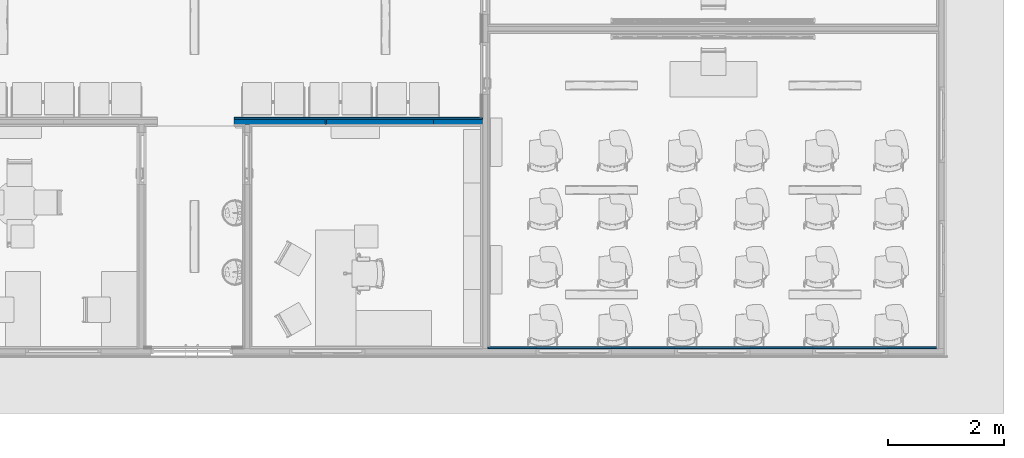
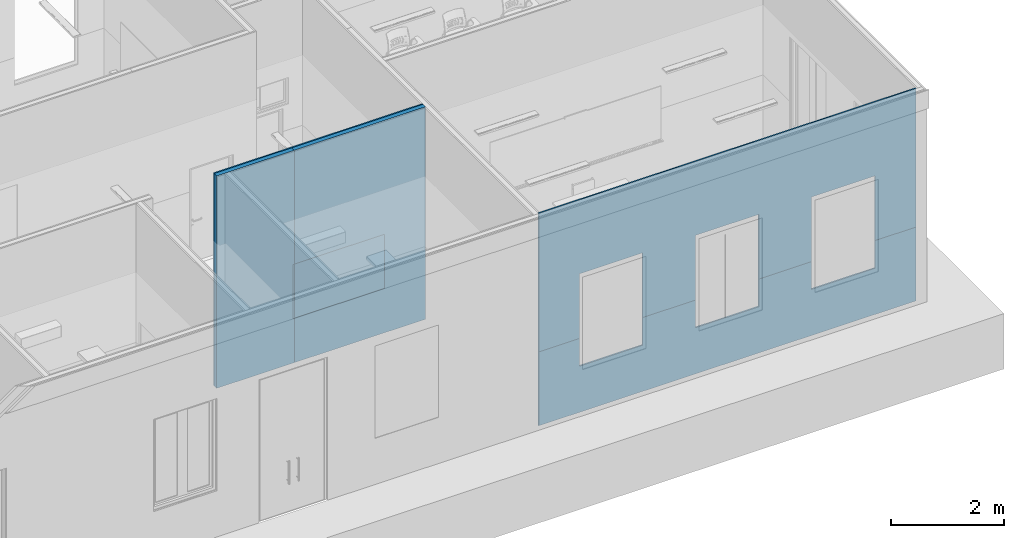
# One storey, part 19 of 155: 8 walls, 20 openings.
"""IFC2X3 building model written with IfcOpenShell, lengths in metres."""

from ifc_helpers import new_model, entity, si_unit, converted_unit, derived_unit, direction, frame, frame_2d, origin, place, context, subcontext, project, spatial, rectangle, extrude, material, layer, layer_set, layer_usage, type_object, element, save


model = new_model("IFC2X3")

# Units and contexts
model_context = context("Model", 3, precision=1e-05, world=origin(), true_north=direction((6.12303176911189e-17, 1.0)))
body_context = subcontext(model_context, "Body", "Model", "MODEL_VIEW")
ifc_project = project(units=[si_unit("LENGTHUNIT", "METRE"), si_unit("AREAUNIT", "SQUARE_METRE"), si_unit("VOLUMEUNIT", "CUBIC_METRE"), converted_unit("PLANEANGLEUNIT", "DEGREE", entity("IfcRatioMeasure", 0.0174532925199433), si_unit("PLANEANGLEUNIT", "RADIAN"), dimensions=[0, 0, 0, 0, 0, 0, 0]), si_unit("MASSUNIT", "GRAM", prefix="KILO"), derived_unit("MASSDENSITYUNIT", [(si_unit("MASSUNIT", "GRAM", prefix="KILO"), 1), (si_unit("LENGTHUNIT", "METRE"), -3)]), si_unit("TIMEUNIT", "SECOND"), si_unit("FREQUENCYUNIT", "HERTZ"), si_unit("THERMODYNAMICTEMPERATUREUNIT", "DEGREE_CELSIUS"), derived_unit("THERMALTRANSMITTANCEUNIT", [(si_unit("MASSUNIT", "GRAM", prefix="KILO"), 1), (si_unit("THERMODYNAMICTEMPERATUREUNIT", "KELVIN"), -1), (si_unit("TIMEUNIT", "SECOND"), -3)]), derived_unit("VOLUMETRICFLOWRATEUNIT", [(si_unit("LENGTHUNIT", "METRE"), 3), (si_unit("TIMEUNIT", "SECOND"), -1)]), si_unit("ELECTRICCURRENTUNIT", "AMPERE"), si_unit("ELECTRICVOLTAGEUNIT", "VOLT"), si_unit("POWERUNIT", "WATT"), si_unit("FORCEUNIT", "NEWTON", prefix="KILO"), si_unit("ILLUMINANCEUNIT", "LUX"), si_unit("LUMINOUSFLUXUNIT", "LUMEN"), si_unit("LUMINOUSINTENSITYUNIT", "CANDELA"), derived_unit("USERDEFINED", [(si_unit("MASSUNIT", "GRAM", prefix="KILO"), -1), (si_unit("LENGTHUNIT", "METRE"), -2), (si_unit("TIMEUNIT", "SECOND"), 3), (si_unit("LUMINOUSFLUXUNIT", "LUMEN"), 1)]), derived_unit("LINEARVELOCITYUNIT", [(si_unit("LENGTHUNIT", "METRE"), 1), (si_unit("TIMEUNIT", "SECOND"), -1)]), si_unit("PRESSUREUNIT", "PASCAL"), derived_unit("USERDEFINED", [(si_unit("LENGTHUNIT", "METRE"), -2), (si_unit("MASSUNIT", "GRAM", prefix="KILO"), 1), (si_unit("TIMEUNIT", "SECOND"), -2)])], contexts=[model_context])

# Site, building, storey
site_placement = place(None, frame((26.9889013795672, -17.5624287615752, 0.0)))
site = spatial("IfcSite", under=ifc_project, at=site_placement, Name="Default", CompositionType="ELEMENT")
building_placement = place(site_placement, origin())
building = spatial("IfcBuilding", under=site, at=building_placement, Name="C. C. L. Monsenhor Antônio Sampaio", CompositionType="ELEMENT")
storey_placement = place(building_placement, frame((0.0, 0.0, 1.19999999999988)))
storey = spatial("IfcBuildingStorey", under=building, at=storey_placement, Name="Nível 1.2", CompositionType="ELEMENT", Elevation=1.19999999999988)

# Wall, opening
ifc_material_1 = material(Name="ALVENARIA")
ifc_layer_1 = layer(ifc_material_1, 0.09)
ifc_layer_set_1 = layer_set([ifc_layer_1], Name="Parede básica:ENucleo parede 15cm")
ifc_layer_usage_1 = layer_usage(ifc_layer_set_1, "AXIS2", "POSITIVE", -0.045)
wall_type_1 = type_object("IfcWallType", Name="Parede básica:ENucleo parede 15cm", PredefinedType="STANDARD", material=ifc_layer_set_1)
wall_1_placement = place(storey_placement, frame((-0.520552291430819, -35.4280663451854, 0.0)))
wall_1 = element("IfcWallStandardCase", 1, at=wall_1_placement, inside=storey, type_object=wall_type_1, material=ifc_layer_usage_1, Name="Parede básica:ENucleo parede 15cm", ObjectType="Parede básica:ENucleo parede 15cm", context=body_context, shape_type="SweptSolid", body=[
    extrude(rectangle(XDim=1.59, YDim=0.0899999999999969, at=frame_2d((0.795, 2.94902990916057e-16), x_axis=(-1.0, 0.0))), origin(), (0.0, 0.0, 1.0), 4.60000000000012),
])
opening_1_placement = place(wall_1_placement, origin())
element("IfcOpeningElement", 2, at=opening_1_placement, cuts=wall_1, Name="Parede básica:ENucleo parede 15cm", ObjectType="Opening", context=body_context, shape_type="SweptSolid", body=[
    extrude(rectangle(XDim=1.17000000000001, YDim=1.87, at=frame_2d((1.11022302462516e-16, 0.0), x_axis=(1.0, 0.0))), frame((2.5, -1.569, 1.55000000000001), z_axis=(0.0, 1.0, 0.0), x_axis=(0.0, 0.0, 1.0)), (0.0, 0.0, 1.0), 3.048),
])

ifc_layer_usage_2 = layer_usage(ifc_layer_set_1, "AXIS2", "POSITIVE", -0.045)
wall_2_placement = place(storey_placement, frame((1.06944770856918, -35.4280663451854, 0.0)))
wall_2 = element("IfcWallStandardCase", 3, at=wall_2_placement, inside=storey, type_object=wall_type_1, material=ifc_layer_usage_2, Name="Parede básica:ENucleo parede 15cm", ObjectType="Parede básica:ENucleo parede 15cm", context=body_context, shape_type="SweptSolid", body=[
    extrude(rectangle(XDim=2.69, YDim=0.0899999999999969, at=frame_2d((1.345, -6.93889390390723e-17), x_axis=(-1.0, 0.0))), origin(), (0.0, 0.0, 1.0), 4.60000000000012),
])
opening_2_placement = place(wall_2_placement, frame((-1.06944770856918, 35.4280663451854, 0.0)))
element("IfcOpeningElement", 4, at=opening_2_placement, cuts=wall_2, Name="Parede básica:ENucleo parede 15cm", ObjectType="Opening", context=body_context, shape_type="SweptSolid", body=[
    extrude(rectangle(XDim=1.17000000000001, YDim=1.87, at=frame_2d((1.11022302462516e-16, 0.0), x_axis=(1.0, 0.0))), frame((1.97944770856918, -36.9970663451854, 1.55000000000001), z_axis=(0.0, 1.0, 0.0), x_axis=(0.0, 0.0, 1.0)), (0.0, 0.0, 1.0), 3.048),
])

# Walls
ifc_layer_usage_3 = layer_usage(ifc_layer_set_1, "AXIS2", "POSITIVE", -0.045)
wall_3_placement = place(storey_placement, frame((1.04444770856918, -35.4280663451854, 0.965000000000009)))
element("IfcWallStandardCase", 5, at=wall_3_placement, inside=storey, type_object=wall_type_1, material=ifc_layer_usage_3, Name="Parede básica:ENucleo parede 15cm", ObjectType="Parede básica:ENucleo parede 15cm", context=body_context, shape_type="SweptSolid", body=[
    extrude(rectangle(XDim=0.0249999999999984, YDim=0.0900000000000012, at=frame_2d((0.0, -2.16840434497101e-15), x_axis=(1.0, 0.0))), frame((0.0124999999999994, 0.0, 0.0)), (0.0, 0.0, 1.0), 1.17000000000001),
])
ifc_layer_usage_4 = layer_usage(ifc_layer_set_1, "AXIS2", "POSITIVE", -0.045)
wall_4_placement = place(storey_placement, frame((1.06944770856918, -35.4280663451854, 0.965000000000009)))
element("IfcWallStandardCase", 6, at=wall_4_placement, inside=storey, type_object=wall_type_1, material=ifc_layer_usage_4, Name="Parede básica:ENucleo parede 15cm", ObjectType="Parede básica:ENucleo parede 15cm", context=body_context, shape_type="SweptSolid", body=[
    extrude(rectangle(XDim=1.845, YDim=0.0900000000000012, at=frame_2d((-2.77555756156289e-16, -4.33333924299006e-15), x_axis=(1.0, 0.0))), frame((0.9225, 0.0, 0.0), z_axis=(0.0, 0.0, 1.0), x_axis=(-1.0, 0.0, 0.0)), (0.0, 0.0, 1.0), 1.17000000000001),
])

# Wall, openings
ifc_material_2 = material(Name=".CERÂMICA 10x10 BRANCA")
ifc_layer_2 = layer(ifc_material_2, 0.0035)
ifc_material_3 = material(Name="Argamassa Colante")
ifc_layer_3 = layer(ifc_material_3, 0.02)
ifc_material_4 = material(Name="4")
ifc_layer_4 = layer(ifc_material_4, 0.0015)
ifc_material_5 = material(Name="3")
ifc_layer_5 = layer(ifc_material_5, 0.005)
ifc_layer_set_2 = layer_set([ifc_layer_2, ifc_layer_3, ifc_layer_4, ifc_layer_5], Name="Parede básica:ECeramica branca 10x10cm")
ifc_layer_usage_5 = layer_usage(ifc_layer_set_2, "AXIS2", "POSITIVE", -0.015)
wall_type_2 = type_object("IfcWallType", Name="Parede básica:ECeramica branca 10x10cm", PredefinedType="STANDARD", material=ifc_layer_set_2)
wall_5_placement = place(storey_placement, frame((11.5794477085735, -39.3180663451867, 0.0), z_axis=(0.0, 0.0, 1.0), x_axis=(-1.0, 0.0, 0.0)))
wall_5 = element("IfcWallStandardCase", 7, at=wall_5_placement, inside=storey, type_object=wall_type_2, material=ifc_layer_usage_5, Name="Parede básica:ECeramica branca 10x10cm", ObjectType="Parede básica:ECeramica branca 10x10cm", context=body_context, shape_type="SweptSolid", body=[
    extrude(rectangle(XDim=7.73000000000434, YDim=0.0299999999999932, at=frame_2d((3.86500000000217, 0.0), x_axis=(-1.0, 0.0))), origin(), (0.0, 0.0, 1.0), 1.6),
])
opening_3_placement = place(wall_5_placement, origin())
element("IfcOpeningElement", 8, at=opening_3_placement, cuts=wall_5, Name="Parede básica:ECeramica branca 10x10cm", ObjectType="Opening", context=body_context, shape_type="SweptSolid", body=[
    extrude(rectangle(XDim=2.0, YDim=1.30000000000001, at=frame_2d((1.66533453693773e-16, -2.22044604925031e-16), x_axis=(1.0, 0.0))), frame((6.25000000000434, -1.50900000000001, 2.0), z_axis=(0.0, 1.0, 0.0), x_axis=(0.0, 0.0, 1.0)), (0.0, 0.0, 1.0), 3.048),
])
opening_4_placement = place(wall_5_placement, origin())
element("IfcOpeningElement", 9, at=opening_4_placement, cuts=wall_5, Name="Parede básica:ECeramica branca 10x10cm", ObjectType="Opening", context=body_context, shape_type="SweptSolid", body=[
    extrude(rectangle(XDim=2.0, YDim=1.30000000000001, at=frame_2d((1.66533453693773e-16, 0.0), x_axis=(1.0, 0.0))), frame((3.87000000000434, -1.50900000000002, 2.0), z_axis=(0.0, 1.0, 0.0), x_axis=(0.0, 0.0, 1.0)), (0.0, 0.0, 1.0), 3.048),
])
opening_5_placement = place(wall_5_placement, origin())
element("IfcOpeningElement", 10, at=opening_5_placement, cuts=wall_5, Name="Parede básica:ECeramica branca 10x10cm", ObjectType="Opening", context=body_context, shape_type="SweptSolid", body=[
    extrude(rectangle(XDim=2.0, YDim=1.30000000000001, at=frame_2d((1.66533453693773e-16, 0.0), x_axis=(1.0, 0.0))), frame((1.49000000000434, -1.50900000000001, 2.0), z_axis=(0.0, 1.0, 0.0), x_axis=(0.0, 0.0, 1.0)), (0.0, 0.0, 1.0), 3.048),
])
opening_6_placement = place(wall_5_placement, origin())
element("IfcOpeningElement", 11, at=opening_6_placement, cuts=wall_5, Name="Parede básica:ECeramica branca 10x10cm", ObjectType="Opening", context=body_context, shape_type="SweptSolid", body=[
    extrude(rectangle(XDim=3.09999999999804, YDim=1.4, at=frame_2d((0.0, -3.33066907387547e-16), x_axis=(0.0, 1.0))), frame((12.8300000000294, -1.50900000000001, 1.54999999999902), z_axis=(0.0, 1.0, 0.0), x_axis=(-1.0, 0.0, 0.0)), (0.0, 0.0, 1.0), 3.04799999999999),
])
opening_7_placement = place(wall_5_placement, origin())
element("IfcOpeningElement", 12, at=opening_7_placement, cuts=wall_5, Name="Parede básica:ECeramica branca 10x10cm", ObjectType="Opening", context=body_context, shape_type="SweptSolid", body=[
    extrude(rectangle(XDim=2.0, YDim=1.30000000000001, at=frame_2d((0.0, -3.88578058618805e-16), x_axis=(0.0, 1.0))), frame((24.1199999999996, -1.41900000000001, 2.0), z_axis=(0.0, 1.0, 0.0), x_axis=(-1.0, 0.0, 0.0)), (0.0, 0.0, 1.0), 3.048),
])
opening_8_placement = place(wall_5_placement, origin())
element("IfcOpeningElement", 13, at=opening_8_placement, cuts=wall_5, Name="Parede básica:ECeramica branca 10x10cm", ObjectType="Opening", context=body_context, shape_type="SweptSolid", body=[
    extrude(rectangle(XDim=2.0, YDim=1.30000000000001, at=frame_2d((-4.9960036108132e-16, -3.88578058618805e-16), x_axis=(0.0, 1.0))), frame((21.7399999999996, -1.41900000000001, 2.0), z_axis=(0.0, 1.0, 0.0), x_axis=(-1.0, 0.0, 0.0)), (0.0, 0.0, 1.0), 3.048),
])
opening_9_placement = place(wall_5_placement, origin())
element("IfcOpeningElement", 14, at=opening_9_placement, cuts=wall_5, Name="Parede básica:ECeramica branca 10x10cm", ObjectType="Opening", context=body_context, shape_type="SweptSolid", body=[
    extrude(rectangle(XDim=2.0, YDim=1.30000000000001, at=frame_2d((0.0, -3.88578058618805e-16), x_axis=(0.0, 1.0))), frame((19.3499999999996, -1.41900000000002, 2.0), z_axis=(0.0, 1.0, 0.0), x_axis=(-1.0, 0.0, 0.0)), (0.0, 0.0, 1.0), 3.048),
])
opening_10_placement = place(wall_5_placement, origin())
element("IfcOpeningElement", 15, at=opening_10_placement, cuts=wall_5, Name="Parede básica:ECeramica branca 10x10cm", ObjectType="Opening", context=body_context, shape_type="SweptSolid", body=[
    extrude(rectangle(XDim=2.0, YDim=1.30000000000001, at=frame_2d((1.66533453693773e-16, 0.0), x_axis=(1.0, 0.0))), frame((15.0400000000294, -1.41900000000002, 2.0), z_axis=(0.0, 1.0, 0.0), x_axis=(0.0, 0.0, 1.0)), (0.0, 0.0, 1.0), 3.048),
])
opening_11_placement = place(wall_5_placement, origin())
element("IfcOpeningElement", 16, at=opening_11_placement, cuts=wall_5, Name="Parede básica:ECeramica branca 10x10cm", ObjectType="Opening", context=body_context, shape_type="SweptSolid", body=[
    extrude(rectangle(XDim=2.0, YDim=1.30000000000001, at=frame_2d((1.66533453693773e-16, -1.11022302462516e-16), x_axis=(1.0, 0.0))), frame((10.5000000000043, -1.50900000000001, 2.0), z_axis=(0.0, 1.0, 0.0), x_axis=(0.0, 0.0, 1.0)), (0.0, 0.0, 1.0), 3.04800000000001),
])

# Wall
ifc_layer_usage_6 = layer_usage(ifc_layer_set_2, "AXIS2", "NEGATIVE", 0.015)
wall_6_placement = place(storey_placement, frame((-0.520552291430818, -35.3680663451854, 0.0)))
element("IfcWallStandardCase", 17, at=wall_6_placement, inside=storey, type_object=wall_type_2, material=ifc_layer_usage_6, Name="Parede básica:ECeramica branca 10x10cm", ObjectType="Parede básica:ECeramica branca 10x10cm", context=body_context, shape_type="SweptSolid", body=[
    extrude(rectangle(XDim=4.27999999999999, YDim=0.0300000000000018, at=frame_2d((2.14, 5.63785129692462e-17), x_axis=(-1.0, 0.0))), origin(), (0.0, 0.0, 1.0), 1.6),
])

# Wall, openings
ifc_material_6 = material(Name="Acabamento Branco")
ifc_layer_6 = layer(ifc_material_6, 0.0035)
ifc_material_7 = material(Name="Massa corrida")
ifc_layer_7 = layer(ifc_material_7, 0.02)
ifc_layer_8 = layer(ifc_material_4, 0.0015)
ifc_layer_9 = layer(ifc_material_5, 0.005)
ifc_layer_set_3 = layer_set([ifc_layer_6, ifc_layer_7, ifc_layer_8, ifc_layer_9], Name="Parede básica:EPintura Branca")
ifc_layer_usage_7 = layer_usage(ifc_layer_set_3, "AXIS2", "POSITIVE", -0.015)
wall_type_3 = type_object("IfcWallType", Name="Parede básica:EPintura Branca", PredefinedType="STANDARD", material=ifc_layer_set_3)
wall_7_placement = place(storey_placement, frame((11.5794477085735, -39.3180663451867, 1.6), z_axis=(0.0, 0.0, 1.0), x_axis=(-1.0, 0.0, 0.0)))
wall_7 = element("IfcWallStandardCase", 18, at=wall_7_placement, inside=storey, type_object=wall_type_3, material=ifc_layer_usage_7, Name="Parede básica:EPintura Branca", ObjectType="Parede básica:EPintura Branca", context=body_context, shape_type="SweptSolid", body=[
    extrude(rectangle(XDim=7.73000000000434, YDim=0.0299999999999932, at=frame_2d((3.86500000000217, 0.0), x_axis=(-1.0, 0.0))), origin(), (0.0, 0.0, 1.0), 3.00000000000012),
])
opening_12_placement = place(wall_7_placement, origin())
element("IfcOpeningElement", 19, at=opening_12_placement, cuts=wall_7, Name="Parede básica:EPintura Branca", ObjectType="Opening", context=body_context, shape_type="SweptSolid", body=[
    extrude(rectangle(XDim=2.0, YDim=1.30000000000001, at=frame_2d((1.66533453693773e-16, -2.22044604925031e-16), x_axis=(1.0, 0.0))), frame((6.25000000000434, -1.50900000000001, 0.400000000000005), z_axis=(0.0, 1.0, 0.0), x_axis=(0.0, 0.0, 1.0)), (0.0, 0.0, 1.0), 3.048),
])
opening_13_placement = place(wall_7_placement, origin())
element("IfcOpeningElement", 20, at=opening_13_placement, cuts=wall_7, Name="Parede básica:EPintura Branca", ObjectType="Opening", context=body_context, shape_type="SweptSolid", body=[
    extrude(rectangle(XDim=2.0, YDim=1.30000000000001, at=frame_2d((1.66533453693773e-16, 0.0), x_axis=(1.0, 0.0))), frame((3.87000000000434, -1.50900000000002, 0.400000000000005), z_axis=(0.0, 1.0, 0.0), x_axis=(0.0, 0.0, 1.0)), (0.0, 0.0, 1.0), 3.048),
])
opening_14_placement = place(wall_7_placement, origin())
element("IfcOpeningElement", 21, at=opening_14_placement, cuts=wall_7, Name="Parede básica:EPintura Branca", ObjectType="Opening", context=body_context, shape_type="SweptSolid", body=[
    extrude(rectangle(XDim=2.0, YDim=1.30000000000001, at=frame_2d((1.66533453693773e-16, 0.0), x_axis=(1.0, 0.0))), frame((1.49000000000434, -1.50900000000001, 0.400000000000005), z_axis=(0.0, 1.0, 0.0), x_axis=(0.0, 0.0, 1.0)), (0.0, 0.0, 1.0), 3.048),
])
opening_15_placement = place(wall_7_placement, origin())
element("IfcOpeningElement", 22, at=opening_15_placement, cuts=wall_7, Name="Parede básica:EPintura Branca", ObjectType="Opening", context=body_context, shape_type="SweptSolid", body=[
    extrude(rectangle(XDim=3.09999999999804, YDim=1.4, at=frame_2d((0.0, -3.33066907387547e-16), x_axis=(0.0, 1.0))), frame((12.8300000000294, -1.50900000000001, -0.0500000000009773), z_axis=(0.0, 1.0, 0.0), x_axis=(-1.0, 0.0, 0.0)), (0.0, 0.0, 1.0), 3.04799999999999),
])
opening_16_placement = place(wall_7_placement, origin())
element("IfcOpeningElement", 23, at=opening_16_placement, cuts=wall_7, Name="Parede básica:EPintura Branca", ObjectType="Opening", context=body_context, shape_type="SweptSolid", body=[
    extrude(rectangle(XDim=2.0, YDim=1.30000000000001, at=frame_2d((0.0, -3.88578058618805e-16), x_axis=(0.0, 1.0))), frame((24.1199999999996, -1.41900000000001, 0.400000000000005), z_axis=(0.0, 1.0, 0.0), x_axis=(-1.0, 0.0, 0.0)), (0.0, 0.0, 1.0), 3.048),
])
opening_17_placement = place(wall_7_placement, origin())
element("IfcOpeningElement", 24, at=opening_17_placement, cuts=wall_7, Name="Parede básica:EPintura Branca", ObjectType="Opening", context=body_context, shape_type="SweptSolid", body=[
    extrude(rectangle(XDim=2.0, YDim=1.30000000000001, at=frame_2d((-4.9960036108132e-16, -3.88578058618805e-16), x_axis=(0.0, 1.0))), frame((21.7399999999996, -1.41900000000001, 0.400000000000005), z_axis=(0.0, 1.0, 0.0), x_axis=(-1.0, 0.0, 0.0)), (0.0, 0.0, 1.0), 3.048),
])
opening_18_placement = place(wall_7_placement, origin())
element("IfcOpeningElement", 25, at=opening_18_placement, cuts=wall_7, Name="Parede básica:EPintura Branca", ObjectType="Opening", context=body_context, shape_type="SweptSolid", body=[
    extrude(rectangle(XDim=2.0, YDim=1.30000000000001, at=frame_2d((0.0, -3.88578058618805e-16), x_axis=(0.0, 1.0))), frame((19.3499999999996, -1.41900000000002, 0.400000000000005), z_axis=(0.0, 1.0, 0.0), x_axis=(-1.0, 0.0, 0.0)), (0.0, 0.0, 1.0), 3.048),
])
opening_19_placement = place(wall_7_placement, origin())
element("IfcOpeningElement", 26, at=opening_19_placement, cuts=wall_7, Name="Parede básica:EPintura Branca", ObjectType="Opening", context=body_context, shape_type="SweptSolid", body=[
    extrude(rectangle(XDim=2.0, YDim=1.30000000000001, at=frame_2d((1.66533453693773e-16, 0.0), x_axis=(1.0, 0.0))), frame((15.0400000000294, -1.41900000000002, 0.400000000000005), z_axis=(0.0, 1.0, 0.0), x_axis=(0.0, 0.0, 1.0)), (0.0, 0.0, 1.0), 3.048),
])
opening_20_placement = place(wall_7_placement, origin())
element("IfcOpeningElement", 27, at=opening_20_placement, cuts=wall_7, Name="Parede básica:EPintura Branca", ObjectType="Opening", context=body_context, shape_type="SweptSolid", body=[
    extrude(rectangle(XDim=2.0, YDim=1.30000000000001, at=frame_2d((1.66533453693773e-16, -1.11022302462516e-16), x_axis=(1.0, 0.0))), frame((10.5000000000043, -1.50900000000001, 0.400000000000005), z_axis=(0.0, 1.0, 0.0), x_axis=(0.0, 0.0, 1.0)), (0.0, 0.0, 1.0), 3.04800000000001),
])

# Wall
ifc_layer_usage_8 = layer_usage(ifc_layer_set_3, "AXIS2", "NEGATIVE", 0.015)
wall_8_placement = place(storey_placement, frame((-0.520552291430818, -35.3680663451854, 1.6)))
element("IfcWallStandardCase", 28, at=wall_8_placement, inside=storey, type_object=wall_type_3, material=ifc_layer_usage_8, Name="Parede básica:EPintura Branca", ObjectType="Parede básica:EPintura Branca", context=body_context, shape_type="SweptSolid", body=[
    extrude(rectangle(XDim=4.27999999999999, YDim=0.0300000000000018, at=frame_2d((2.14, 5.63785129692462e-17), x_axis=(-1.0, 0.0))), origin(), (0.0, 0.0, 1.0), 3.00000000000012),
])

save(model, "model.ifc")
